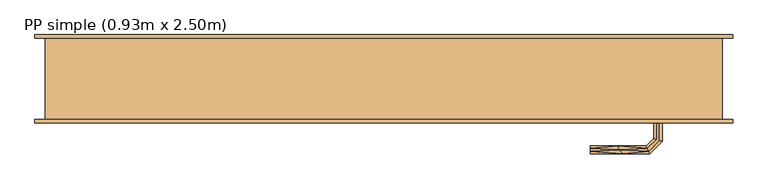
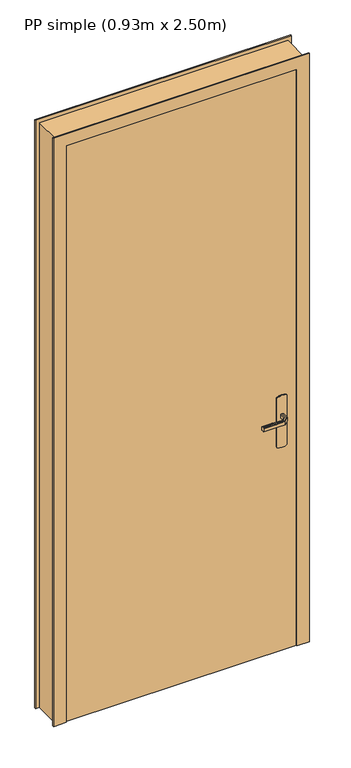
"""IFC4 building model written with IfcOpenShell, lengths in millimetres: door geometry, PP simple (0.93m x 2.50m)."""

from ifc_helpers import new_model, si_unit, frame, origin, origin_with_axes, place, context, project, spatial, polyline, outline, extrude, faceted_brep, source, transform, mapped, element, save


def pp_simple_0_93m_x_2_50m_4943da24(model_context):
    return source(origin(), model_context, "Body", "SolidModel", [
        extrude(outline(polyline([(870.0, 995.0), (1080.0, 995.0), (1083.9960169, 985.3527618), (1085.3589838, 975.0), (1083.9960169, 964.6472382), (1080.0, 955.0), (870.0, 955.0), (866.0039831, 964.6472382), (864.6410162, 975.0), (866.0039831, 985.3527618), (870.0, 995.0)])), frame((0.0, -5.0, 0.0), z_axis=(0.0, 1.0, 0.0), x_axis=(0.0, 0.0, 1.0)), (0.0, 0.0, 1.0), 5.0),
        faceted_brep([(972.9747013, 45.0, 992.2195592), (977.0252987, 45.0, 992.2195592), (981.0, 45.0, 993.0), (981.0, 45.0, 1007.0), (977.0252987, 45.0, 1007.7804408), (972.9747013, 45.0, 1007.7804408), (969.0, 45.0, 1007.0), (969.0, 45.0, 993.0), (969.0, 67.4852045, 1007.0), (969.0, 67.4852045, 993.0), (972.9747013, 69.1315797, 1007.7804408), (977.0252987, 70.8093921, 1007.7804408), (960.8389062, 86.9957845, 1007.7804408), (959.1610938, 82.9451872, 1007.7804408), (981.0, 72.4557673, 1007.0), (981.0, 72.4557673, 993.0), (977.0252987, 70.8093921, 992.2195592), (972.9747013, 69.1315797, 992.2195592), (959.1610938, 82.9451872, 992.2195592), (960.8389062, 86.9957845, 992.2195592), (957.5147186, 78.9704859, 1007.0), (957.5147186, 78.9704859, 993.0), (962.4852814, 90.9704859, 1007.0), (962.4852814, 90.9704859, 993.0), (874.9542163, 82.9451872, 1007.7804408), (874.9542163, 86.9957845, 1007.7804408), (874.9542163, 90.9704859, 1007.0), (874.9542163, 90.9704859, 993.0), (874.9542163, 86.9957845, 992.2195592), (874.9542163, 82.9451872, 992.2195592), (874.9542163, 78.9704859, 993.0), (874.9542163, 78.9704859, 1007.0), (916.2344675, 78.9704859, 1007.0), (916.2344794, 78.9704859, 993.0), (917.0576551, 84.9704859, 1007.8786868), (922.5547942, 90.9704859, 1007.0), (922.5547957, 90.9704859, 993.0), (917.0576549, 84.9704858, 992.1213132)], [[[0, 1, 2, 3, 4, 5, 6, 7]], [[8, 9, 7, 6]], [[5, 10, 8, 6]], [[5, 4, 11, 12, 13, 10]], [[3, 14, 11, 4]], [[14, 3, 2, 15]], [[2, 1, 16, 15]], [[1, 0, 17, 18, 19, 16]], [[0, 7, 9, 17]], [[20, 21, 9, 8]], [[8, 10, 13, 20]], [[14, 22, 12, 11]], [[23, 22, 14, 15]], [[15, 16, 19, 23]], [[17, 9, 21, 18]], [[24, 25, 26, 27, 28, 29, 30, 31]], [[21, 20, 32, 31, 30, 33]], [[34, 24, 32]], [[25, 34, 35]], [[13, 32, 20]], [[24, 31, 32]], [[25, 35, 26]], [[35, 12, 22]], [[34, 12, 35]], [[34, 13, 12]], [[34, 32, 13]], [[24, 34, 25]], [[22, 23, 36, 27, 26, 35]], [[37, 28, 36]], [[36, 28, 27]], [[36, 23, 19]], [[18, 33, 37]], [[33, 18, 21]], [[30, 29, 33]], [[37, 29, 28]], [[37, 33, 29]], [[37, 36, 19]], [[18, 37, 19]]]),
        faceted_brep([(972.9747013, -5.0, 1007.7804408), (977.0252987, -5.0, 1007.7804408), (981.0, -5.0, 1007.0), (981.0, -5.0, 993.0), (977.0252987, -5.0, 992.2195592), (972.9747013, -5.0, 992.2195592), (969.0, -5.0, 993.0), (969.0, -5.0, 1007.0), (977.0252987, -31.0045755, 1007.7804408), (981.0, -32.6509507, 1007.0), (972.9747013, -29.3267632, 1007.7804408), (959.2986025, -43.002862, 1007.7804408), (960.9764148, -47.0534593, 1007.7804408), (969.0, -27.680388, 1007.0), (969.0, -27.680388, 993.0), (972.9747013, -29.3267632, 992.2195592), (977.0252987, -31.0045755, 992.2195592), (960.9764148, -47.0534593, 992.2195592), (959.2986025, -43.002862, 992.2195592), (981.0, -32.6509507, 993.0), (962.62279, -51.0281607, 1007.0), (957.6522273, -39.0281607, 1007.0), (957.6522273, -39.0281607, 993.0), (962.62279, -51.0281607, 993.0), (874.9813594, -51.0281607, 1007.0), (874.9813594, -47.0534593, 1007.7804408), (874.9813594, -43.002862, 1007.7804408), (874.9813594, -39.0281607, 1007.0), (874.9813594, -39.0281607, 993.0), (874.9813594, -43.002862, 992.2195592), (874.9813594, -47.0534593, 992.2195592), (874.9813594, -51.0281607, 993.0), (917.1399809, -45.0281607, 1007.8786868), (922.6923028, -51.0281607, 1007.0), (916.3167933, -39.0281607, 1007.0), (916.3167933, -39.0281607, 993.0), (917.1399811, -45.0281608, 992.1213132), (922.6923104, -51.0281607, 993.0)], [[[0, 1, 2, 3, 4, 5, 6, 7]], [[2, 1, 8, 9]], [[1, 0, 10, 11, 12, 8]], [[0, 7, 13, 10]], [[14, 13, 7, 6]], [[5, 15, 14, 6]], [[5, 4, 16, 17, 18, 15]], [[3, 19, 16, 4]], [[9, 19, 3, 2]], [[9, 8, 12, 20]], [[10, 13, 21, 11]], [[22, 21, 13, 14]], [[14, 15, 18, 22]], [[16, 19, 23, 17]], [[20, 23, 19, 9]], [[24, 25, 26, 27, 28, 29, 30, 31]], [[32, 25, 33]], [[33, 25, 24]], [[33, 20, 12]], [[11, 34, 32]], [[34, 11, 21]], [[27, 26, 34]], [[32, 26, 25]], [[32, 34, 26]], [[32, 33, 12]], [[11, 32, 12]], [[21, 22, 35, 28, 27, 34]], [[36, 29, 35]], [[30, 36, 37]], [[18, 35, 22]], [[29, 28, 35]], [[30, 37, 31]], [[37, 17, 23]], [[36, 17, 37]], [[36, 18, 17]], [[36, 35, 18]], [[29, 36, 30]], [[23, 20, 33, 24, 31, 37]]]),
        faceted_brep([(1070.0, 120.0, 0.0), (1070.0, 0.0, 0.0), (1085.0, 0.0, 0.0), (1085.0, -5.0, 0.0), (1035.0, -5.0, 0.0), (1035.0, 40.0, 0.0), (1020.0, 40.0, 0.0), (1020.0, 125.0, 0.0), (1085.0, 125.0, 0.0), (1085.0, 120.0, 0.0), (1070.0, 120.0, 2485.0), (1070.0, 0.0, 2485.0), (1085.0, 120.0, 2500.0), (55.0, 120.0, 2500.0), (55.0, 120.0, 0.0), (70.0, 120.0, 0.0), (70.0, 120.0, 2485.0), (1020.0, 40.0, 2435.0), (1020.0, 125.0, 2435.0), (1035.0, 40.0, 2450.0), (105.0, 40.0, 2450.0), (105.0, 40.0, 0.0), (120.0, 40.0, 0.0), (120.0, 40.0, 2435.0), (70.0, 0.0, 0.0), (70.0, 0.0, 2485.0), (55.0, 125.0, 0.0), (120.0, 125.0, 0.0), (105.0, -5.0, 0.0), (55.0, -5.0, 0.0), (55.0, 0.0, 0.0), (120.0, 125.0, 2435.0), (1035.0, -5.0, 2450.0), (1085.0, -5.0, 2500.0), (55.0, -5.0, 2500.0), (105.0, -5.0, 2450.0), (1085.0, 0.0, 2500.0), (55.0, 0.0, 2500.0), (1085.0, 125.0, 2500.0), (55.0, 125.0, 2500.0)], [[[0, 1, 2, 3, 4, 5, 6, 7, 8, 9]], [[0, 10, 11, 1]], [[9, 12, 13, 14, 15, 16, 10, 0]], [[7, 6, 17, 18]], [[5, 19, 20, 21, 22, 23, 17, 6]], [[16, 15, 24, 25]], [[15, 14, 26, 27, 22, 21, 28, 29, 30, 24]], [[23, 22, 27, 31]], [[10, 16, 25, 11]], [[17, 23, 31, 18]], [[5, 4, 32, 19]], [[3, 33, 34, 29, 28, 35, 32, 4]], [[2, 36, 33, 3]], [[1, 11, 25, 24, 30, 37, 36, 2]], [[8, 38, 12, 9]], [[7, 18, 31, 27, 26, 39, 38, 8]], [[35, 28, 21, 20]], [[37, 30, 29, 34]], [[39, 26, 14, 13]], [[32, 35, 20, 19]], [[36, 37, 34, 33]], [[38, 39, 13, 12]]]),
        extrude(outline(polyline([(870.0, 995.0), (1080.0, 995.0), (1083.9960169, 985.3527618), (1085.3589838, 975.0), (1083.9960169, 964.6472382), (1080.0, 955.0), (870.0, 955.0), (866.0039831, 964.6472382), (864.6410162, 975.0), (866.0039831, 985.3527618), (870.0, 995.0)])), frame((0.0, 40.0, 0.0), z_axis=(0.0, 1.0, 0.0), x_axis=(0.0, 0.0, 1.0)), (0.0, 0.0, 1.0), 5.0),
        extrude(outline(polyline([(1035.0, 40.0), (1035.0, 0.0), (105.0, 0.0), (105.0, 40.0), (1035.0, 40.0)])), origin_with_axes(), (0.0, 0.0, 1.0), 2450.0),
    ])


if __name__ == "__main__":
    model = new_model("IFC4")
    model_context = context("Model", 3, world=origin())
    ifc_project = project(units=[si_unit("LENGTHUNIT", "METRE", prefix="MILLI")], contexts=[model_context])
    site = spatial("IfcSite", under=ifc_project)
    building = spatial("IfcBuilding", under=site)
    placement = place(None, origin())
    pp_simple_0_93m_x_2_50m_shape = pp_simple_0_93m_x_2_50m_4943da24(model_context)
    element("IfcDoor", 1, ObjectType="PP simple (0.93m x 2.50m)", at=placement, inside=building, context=model_context, shape_type="MappedRepresentation", body=[
        mapped(pp_simple_0_93m_x_2_50m_shape, transform((0.0, 0.0, 0.0), x_axis=(1.0, 0.0, 0.0), y_axis=(0.0, 1.0, 0.0), z_axis=(0.0, 0.0, 1.0))),
    ])
    save(model, "model.ifc")
